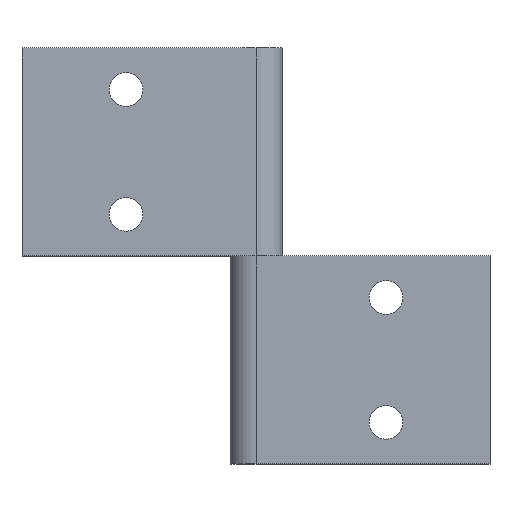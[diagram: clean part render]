
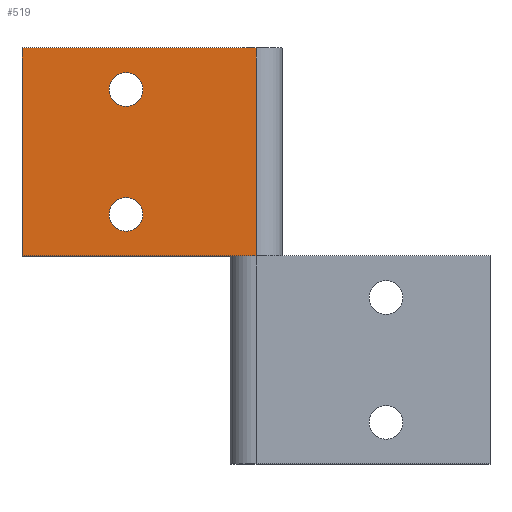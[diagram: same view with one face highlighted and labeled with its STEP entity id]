
A CAD part, top view. The second image highlights one B-rep face of the part: STEP entity #519.
In plain terms, the highlighted planar face has unit normal (0, 0, 1).
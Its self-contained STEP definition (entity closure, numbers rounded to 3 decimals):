
#141=DIRECTION('',(1.,0.,0.));
#142=VECTOR('',#141,45.);
#143=CARTESIAN_POINT('',(-45.,-20.,0.));
#144=LINE('',#143,#142);
#163=DIRECTION('',(1.,0.,0.));
#164=VECTOR('',#163,45.);
#165=CARTESIAN_POINT('',(-45.,20.,0.));
#166=LINE('',#165,#164);
#184=DIRECTION('',(0.,1.,0.));
#185=VECTOR('',#184,40.);
#186=CARTESIAN_POINT('',(0.,-20.,0.));
#187=LINE('',#186,#185);
#209=DIRECTION('',(0.,1.,0.));
#210=VECTOR('',#209,40.);
#211=CARTESIAN_POINT('',(-45.,-20.,0.));
#212=LINE('',#211,#210);
#213=CARTESIAN_POINT('',(-25.,-12.,0.));
#214=DIRECTION('',(0.,0.,-1.));
#215=DIRECTION('',(1.,0.,0.));
#216=AXIS2_PLACEMENT_3D('',#213,#214,#215);
#218=CARTESIAN_POINT('',(-25.,-12.,0.));
#219=DIRECTION('',(0.,0.,-1.));
#220=DIRECTION('',(-1.,0.,0.));
#221=AXIS2_PLACEMENT_3D('',#218,#219,#220);
#223=CARTESIAN_POINT('',(-25.,12.,0.));
#224=DIRECTION('',(0.,0.,-1.));
#225=DIRECTION('',(1.,0.,0.));
#226=AXIS2_PLACEMENT_3D('',#223,#224,#225);
#228=CARTESIAN_POINT('',(-25.,12.,0.));
#229=DIRECTION('',(0.,0.,-1.));
#230=DIRECTION('',(-1.,0.,0.));
#231=AXIS2_PLACEMENT_3D('',#228,#229,#230);
#305=CARTESIAN_POINT('',(-45.,-20.,0.));
#306=CARTESIAN_POINT('',(-45.,20.,0.));
#307=VERTEX_POINT('',#305);
#308=VERTEX_POINT('',#306);
#321=CARTESIAN_POINT('',(0.,-20.,0.));
#322=VERTEX_POINT('',#321);
#323=CARTESIAN_POINT('',(0.,20.,0.));
#324=VERTEX_POINT('',#323);
#333=CARTESIAN_POINT('',(-21.75,-12.,0.));
#334=CARTESIAN_POINT('',(-28.25,-12.,0.));
#335=VERTEX_POINT('',#333);
#336=VERTEX_POINT('',#334);
#337=CARTESIAN_POINT('',(-21.75,12.,0.));
#338=CARTESIAN_POINT('',(-28.25,12.,0.));
#339=VERTEX_POINT('',#337);
#340=VERTEX_POINT('',#338);
#496=CARTESIAN_POINT('',(-45.,-20.,0.));
#497=DIRECTION('',(0.,0.,1.));
#498=DIRECTION('',(1.,0.,0.));
#499=AXIS2_PLACEMENT_3D('',#496,#497,#498);
#500=PLANE('',#499);
#501=ORIENTED_EDGE('',*,*,#439,.F.);
#502=ORIENTED_EDGE('',*,*,#370,.F.);
#503=ORIENTED_EDGE('',*,*,#491,.T.);
#504=ORIENTED_EDGE('',*,*,#416,.T.);
#505=EDGE_LOOP('',(#501,#502,#503,#504));
#506=FACE_OUTER_BOUND('',#505,.F.);
#508=ORIENTED_EDGE('',*,*,#507,.F.);
#510=ORIENTED_EDGE('',*,*,#509,.F.);
#511=EDGE_LOOP('',(#508,#510));
#512=FACE_BOUND('',#511,.F.);
#514=ORIENTED_EDGE('',*,*,#513,.F.);
#516=ORIENTED_EDGE('',*,*,#515,.F.);
#517=EDGE_LOOP('',(#514,#516));
#518=FACE_BOUND('',#517,.F.);
#519=ADVANCED_FACE('',(#506,#512,#518),#500,.T.);
#217=CIRCLE('',#216,3.25);
#222=CIRCLE('',#221,3.25);
#227=CIRCLE('',#226,3.25);
#232=CIRCLE('',#231,3.25);
#370=EDGE_CURVE('',#307,#322,#144,.T.);
#416=EDGE_CURVE('',#308,#324,#166,.T.);
#439=EDGE_CURVE('',#322,#324,#187,.T.);
#491=EDGE_CURVE('',#307,#308,#212,.T.);
#507=EDGE_CURVE('',#335,#336,#217,.T.);
#509=EDGE_CURVE('',#336,#335,#222,.T.);
#513=EDGE_CURVE('',#339,#340,#227,.T.);
#515=EDGE_CURVE('',#340,#339,#232,.T.);
